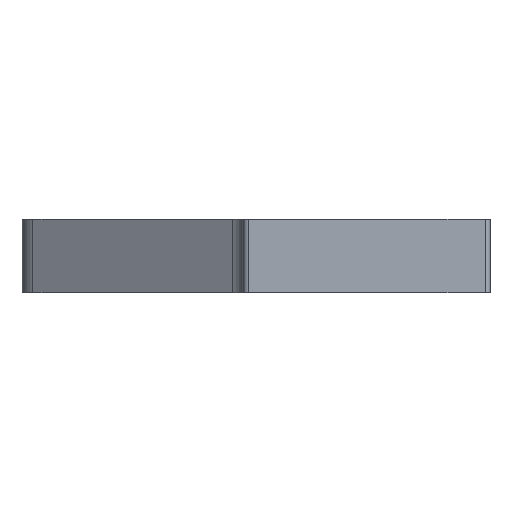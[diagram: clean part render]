
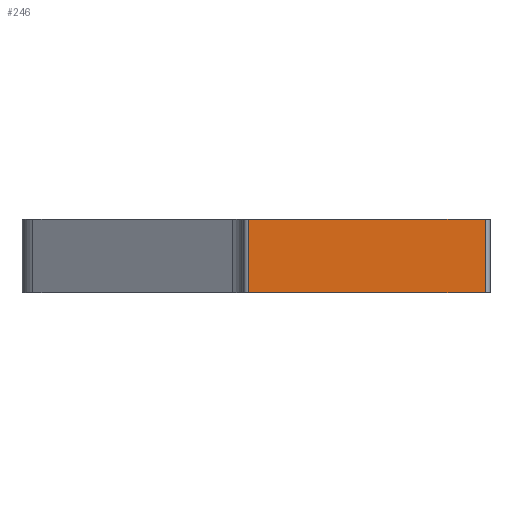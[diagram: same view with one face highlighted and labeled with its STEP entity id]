
A CAD part, front view. The second image highlights one B-rep face of the part: STEP entity #246.
In plain terms, the highlighted planar face has unit normal (0, -1, 0).
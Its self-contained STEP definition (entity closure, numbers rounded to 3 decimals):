
#12 = EDGE_CURVE ( 'NONE', #608, #164, #711, .T. ) ;
#41 = CARTESIAN_POINT ( 'NONE',  ( -24., -15., 7.5 ) ) ;
#100 = EDGE_CURVE ( 'NONE', #760, #864, #248, .T. ) ;
#112 = CARTESIAN_POINT ( 'NONE',  ( 24., -15., 7.5 ) ) ;
#164 = VERTEX_POINT ( 'NONE', #609 ) ;
#193 = ORIENTED_EDGE ( 'NONE', *, *, #899, .T. ) ;
#211 = CARTESIAN_POINT ( 'NONE',  ( 25., -15., -7.5 ) ) ;
#230 = DIRECTION ( 'NONE',  ( 0., 1., 0. ) ) ;
#246 = ADVANCED_FACE ( 'NONE', ( #922 ), #532, .F. ) ;
#248 = LINE ( 'NONE', #820, #652 ) ;
#287 = EDGE_CURVE ( 'NONE', #760, #164, #830, .T. ) ;
#532 = PLANE ( 'NONE',  #543 ) ;
#534 = LINE ( 'NONE', #211, #768 ) ;
#543 = AXIS2_PLACEMENT_3D ( 'NONE', #1013, #230, #856 ) ;
#546 = DIRECTION ( 'NONE',  ( 1., 0., 0. ) ) ;
#584 = ORIENTED_EDGE ( 'NONE', *, *, #100, .T. ) ;
#608 = VERTEX_POINT ( 'NONE', #646 ) ;
#609 = CARTESIAN_POINT ( 'NONE',  ( 24., -15., 7.5 ) ) ;
#611 = CARTESIAN_POINT ( 'NONE',  ( 25., -15., 7.5 ) ) ;
#615 = VECTOR ( 'NONE', #897, 1000. ) ;
#629 = VECTOR ( 'NONE', #546, 1000. ) ;
#646 = CARTESIAN_POINT ( 'NONE',  ( 24., -15., -7.5 ) ) ;
#652 = VECTOR ( 'NONE', #681, 1000. ) ;
#676 = ORIENTED_EDGE ( 'NONE', *, *, #12, .T. ) ;
#681 = DIRECTION ( 'NONE',  ( 0., 0., -1. ) ) ;
#711 = LINE ( 'NONE', #112, #615 ) ;
#741 = DIRECTION ( 'NONE',  ( 1., 0., 0. ) ) ;
#760 = VERTEX_POINT ( 'NONE', #41 ) ;
#768 = VECTOR ( 'NONE', #741, 1000. ) ;
#820 = CARTESIAN_POINT ( 'NONE',  ( -24., -15., 7.5 ) ) ;
#830 = LINE ( 'NONE', #611, #629 ) ;
#856 = DIRECTION ( 'NONE',  ( 0., 0., 1. ) ) ;
#864 = VERTEX_POINT ( 'NONE', #997 ) ;
#897 = DIRECTION ( 'NONE',  ( 0., 0., 1. ) ) ;
#899 = EDGE_CURVE ( 'NONE', #864, #608, #534, .T. ) ;
#922 = FACE_OUTER_BOUND ( 'NONE', #928, .T. ) ;
#928 = EDGE_LOOP ( 'NONE', ( #193, #676, #937, #584 ) ) ;
#937 = ORIENTED_EDGE ( 'NONE', *, *, #287, .F. ) ;
#997 = CARTESIAN_POINT ( 'NONE',  ( -24., -15., -7.5 ) ) ;
#1013 = CARTESIAN_POINT ( 'NONE',  ( 25., -15., 7.5 ) ) ;
